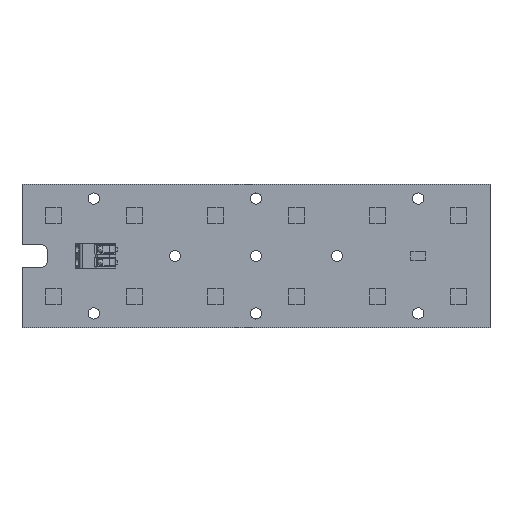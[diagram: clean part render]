
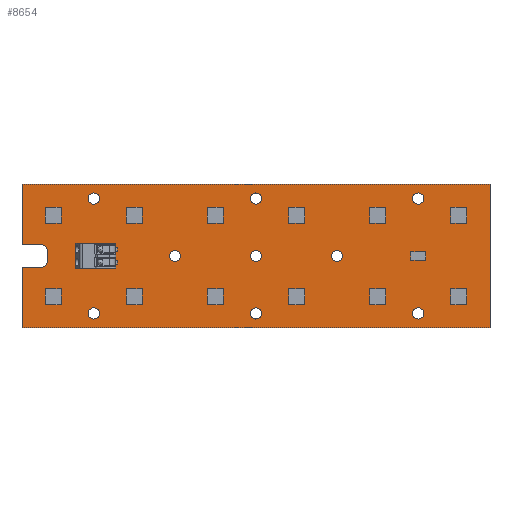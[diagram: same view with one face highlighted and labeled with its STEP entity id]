
A CAD part, top view. The second image highlights one B-rep face of the part: STEP entity #8654.
In plain terms, the highlighted planar face has unit normal (0, 0, 1).
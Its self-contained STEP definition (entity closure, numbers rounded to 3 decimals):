
#8005 = VERTEX_POINT('',#8006);
#8006 = CARTESIAN_POINT('',(-98.7,-22.5,0.));
#8012 = EDGE_CURVE('',#8005,#8013,#8015,.T.);
#8013 = VERTEX_POINT('',#8014);
#8014 = CARTESIAN_POINT('',(-98.7,-3.5,0.));
#8015 = LINE('',#8016,#8017);
#8016 = CARTESIAN_POINT('',(-98.7,-22.5,0.));
#8017 = VECTOR('',#8018,1.);
#8018 = DIRECTION('',(0.,1.,0.));
#8043 = EDGE_CURVE('',#8013,#8044,#8046,.T.);
#8044 = VERTEX_POINT('',#8045);
#8045 = CARTESIAN_POINT('',(-92.7,-3.5,0.));
#8046 = LINE('',#8047,#8048);
#8047 = CARTESIAN_POINT('',(-98.7,-3.5,0.));
#8048 = VECTOR('',#8049,1.);
#8049 = DIRECTION('',(1.,0.,0.));
#8074 = EDGE_CURVE('',#8044,#8075,#8077,.T.);
#8075 = VERTEX_POINT('',#8076);
#8076 = CARTESIAN_POINT('',(-90.7,-1.5,0.));
#8077 = CIRCLE('',#8078,2.001);
#8078 = AXIS2_PLACEMENT_3D('',#8079,#8080,#8081);
#8079 = CARTESIAN_POINT('',(-92.701,-1.499,0.));
#8080 = DIRECTION('',(0.,0.,1.));
#8081 = DIRECTION('',(0.,-1.,0.));
#8107 = EDGE_CURVE('',#8075,#8108,#8110,.T.);
#8108 = VERTEX_POINT('',#8109);
#8109 = CARTESIAN_POINT('',(-90.7,1.5,0.));
#8110 = LINE('',#8111,#8112);
#8111 = CARTESIAN_POINT('',(-90.7,-1.5,0.));
#8112 = VECTOR('',#8113,1.);
#8113 = DIRECTION('',(0.,1.,0.));
#8138 = EDGE_CURVE('',#8108,#8139,#8141,.T.);
#8139 = VERTEX_POINT('',#8140);
#8140 = CARTESIAN_POINT('',(-92.7,3.5,0.));
#8141 = CIRCLE('',#8142,2.001);
#8142 = AXIS2_PLACEMENT_3D('',#8143,#8144,#8145);
#8143 = CARTESIAN_POINT('',(-92.701,1.499,0.));
#8144 = DIRECTION('',(0.,0.,1.));
#8145 = DIRECTION('',(1.,0.,0.));
#8171 = EDGE_CURVE('',#8139,#8172,#8174,.T.);
#8172 = VERTEX_POINT('',#8173);
#8173 = CARTESIAN_POINT('',(-98.7,3.5,0.));
#8174 = LINE('',#8175,#8176);
#8175 = CARTESIAN_POINT('',(-92.7,3.5,0.));
#8176 = VECTOR('',#8177,1.);
#8177 = DIRECTION('',(-1.,0.,0.));
#8202 = EDGE_CURVE('',#8172,#8203,#8205,.T.);
#8203 = VERTEX_POINT('',#8204);
#8204 = CARTESIAN_POINT('',(-98.7,22.5,0.));
#8205 = LINE('',#8206,#8207);
#8206 = CARTESIAN_POINT('',(-98.7,3.5,0.));
#8207 = VECTOR('',#8208,1.);
#8208 = DIRECTION('',(0.,1.,0.));
#8233 = EDGE_CURVE('',#8203,#8234,#8236,.T.);
#8234 = VERTEX_POINT('',#8235);
#8235 = CARTESIAN_POINT('',(47.9,22.5,0.));
#8236 = LINE('',#8237,#8238);
#8237 = CARTESIAN_POINT('',(-98.7,22.5,0.));
#8238 = VECTOR('',#8239,1.);
#8239 = DIRECTION('',(1.,0.,0.));
#8264 = EDGE_CURVE('',#8234,#8265,#8267,.T.);
#8265 = VERTEX_POINT('',#8266);
#8266 = CARTESIAN_POINT('',(47.9,-22.5,0.));
#8267 = LINE('',#8268,#8269);
#8268 = CARTESIAN_POINT('',(47.9,22.5,0.));
#8269 = VECTOR('',#8270,1.);
#8270 = DIRECTION('',(0.,-1.,0.));
#8295 = EDGE_CURVE('',#8265,#8005,#8296,.T.);
#8296 = LINE('',#8297,#8298);
#8297 = CARTESIAN_POINT('',(47.9,-22.5,0.));
#8298 = VECTOR('',#8299,1.);
#8299 = DIRECTION('',(-1.,0.,0.));
#8319 = VERTEX_POINT('',#8320);
#8320 = CARTESIAN_POINT('',(-74.45,-18.,0.));
#8326 = EDGE_CURVE('',#8319,#8319,#8327,.T.);
#8327 = CIRCLE('',#8328,1.75);
#8328 = AXIS2_PLACEMENT_3D('',#8329,#8330,#8331);
#8329 = CARTESIAN_POINT('',(-76.2,-18.,0.));
#8330 = DIRECTION('',(0.,0.,1.));
#8331 = DIRECTION('',(1.,0.,0.));
#8352 = VERTEX_POINT('',#8353);
#8353 = CARTESIAN_POINT('',(-23.65,0.,0.));
#8359 = EDGE_CURVE('',#8352,#8352,#8360,.T.);
#8360 = CIRCLE('',#8361,1.75);
#8361 = AXIS2_PLACEMENT_3D('',#8362,#8363,#8364);
#8362 = CARTESIAN_POINT('',(-25.4,0.,0.));
#8363 = DIRECTION('',(0.,0.,1.));
#8364 = DIRECTION('',(1.,0.,0.));
#8385 = VERTEX_POINT('',#8386);
#8386 = CARTESIAN_POINT('',(-74.45,18.,0.));
#8392 = EDGE_CURVE('',#8385,#8385,#8393,.T.);
#8393 = CIRCLE('',#8394,1.75);
#8394 = AXIS2_PLACEMENT_3D('',#8395,#8396,#8397);
#8395 = CARTESIAN_POINT('',(-76.2,18.,0.));
#8396 = DIRECTION('',(0.,0.,1.));
#8397 = DIRECTION('',(1.,0.,0.));
#8418 = VERTEX_POINT('',#8419);
#8419 = CARTESIAN_POINT('',(-49.1,0.,0.));
#8425 = EDGE_CURVE('',#8418,#8418,#8426,.T.);
#8426 = CIRCLE('',#8427,1.7);
#8427 = AXIS2_PLACEMENT_3D('',#8428,#8429,#8430);
#8428 = CARTESIAN_POINT('',(-50.8,0.,0.));
#8429 = DIRECTION('',(0.,0.,1.));
#8430 = DIRECTION('',(1.,0.,0.));
#8451 = VERTEX_POINT('',#8452);
#8452 = CARTESIAN_POINT('',(-23.65,-18.,0.));
#8458 = EDGE_CURVE('',#8451,#8451,#8459,.T.);
#8459 = CIRCLE('',#8460,1.75);
#8460 = AXIS2_PLACEMENT_3D('',#8461,#8462,#8463);
#8461 = CARTESIAN_POINT('',(-25.4,-18.,0.));
#8462 = DIRECTION('',(0.,0.,1.));
#8463 = DIRECTION('',(1.,0.,0.));
#8484 = VERTEX_POINT('',#8485);
#8485 = CARTESIAN_POINT('',(27.15,-18.,0.));
#8491 = EDGE_CURVE('',#8484,#8484,#8492,.T.);
#8492 = CIRCLE('',#8493,1.75);
#8493 = AXIS2_PLACEMENT_3D('',#8494,#8495,#8496);
#8494 = CARTESIAN_POINT('',(25.4,-18.,0.));
#8495 = DIRECTION('',(0.,0.,1.));
#8496 = DIRECTION('',(1.,0.,0.));
#8517 = VERTEX_POINT('',#8518);
#8518 = CARTESIAN_POINT('',(-23.65,18.,0.));
#8524 = EDGE_CURVE('',#8517,#8517,#8525,.T.);
#8525 = CIRCLE('',#8526,1.75);
#8526 = AXIS2_PLACEMENT_3D('',#8527,#8528,#8529);
#8527 = CARTESIAN_POINT('',(-25.4,18.,0.));
#8528 = DIRECTION('',(0.,0.,1.));
#8529 = DIRECTION('',(1.,0.,0.));
#8550 = VERTEX_POINT('',#8551);
#8551 = CARTESIAN_POINT('',(1.7,0.,0.));
#8557 = EDGE_CURVE('',#8550,#8550,#8558,.T.);
#8558 = CIRCLE('',#8559,1.7);
#8559 = AXIS2_PLACEMENT_3D('',#8560,#8561,#8562);
#8560 = CARTESIAN_POINT('',(0.,0.,0.));
#8561 = DIRECTION('',(0.,0.,1.));
#8562 = DIRECTION('',(1.,0.,0.));
#8583 = VERTEX_POINT('',#8584);
#8584 = CARTESIAN_POINT('',(27.15,18.,0.));
#8590 = EDGE_CURVE('',#8583,#8583,#8591,.T.);
#8591 = CIRCLE('',#8592,1.75);
#8592 = AXIS2_PLACEMENT_3D('',#8593,#8594,#8595);
#8593 = CARTESIAN_POINT('',(25.4,18.,0.));
#8594 = DIRECTION('',(0.,0.,1.));
#8595 = DIRECTION('',(1.,0.,0.));
#8654 = ADVANCED_FACE('',(#8655,#8667,#8670,#8673,#8676,#8679,#8682,
    #8685,#8688,#8691),#8694,.T.);
#8655 = FACE_BOUND('',#8656,.F.);
#8656 = EDGE_LOOP('',(#8657,#8658,#8659,#8660,#8661,#8662,#8663,#8664,
    #8665,#8666));
#8657 = ORIENTED_EDGE('',*,*,#8012,.T.);
#8658 = ORIENTED_EDGE('',*,*,#8043,.T.);
#8659 = ORIENTED_EDGE('',*,*,#8074,.T.);
#8660 = ORIENTED_EDGE('',*,*,#8107,.T.);
#8661 = ORIENTED_EDGE('',*,*,#8138,.T.);
#8662 = ORIENTED_EDGE('',*,*,#8171,.T.);
#8663 = ORIENTED_EDGE('',*,*,#8202,.T.);
#8664 = ORIENTED_EDGE('',*,*,#8233,.T.);
#8665 = ORIENTED_EDGE('',*,*,#8264,.T.);
#8666 = ORIENTED_EDGE('',*,*,#8295,.T.);
#8667 = FACE_BOUND('',#8668,.T.);
#8668 = EDGE_LOOP('',(#8669));
#8669 = ORIENTED_EDGE('',*,*,#8326,.F.);
#8670 = FACE_BOUND('',#8671,.T.);
#8671 = EDGE_LOOP('',(#8672));
#8672 = ORIENTED_EDGE('',*,*,#8359,.F.);
#8673 = FACE_BOUND('',#8674,.T.);
#8674 = EDGE_LOOP('',(#8675));
#8675 = ORIENTED_EDGE('',*,*,#8392,.F.);
#8676 = FACE_BOUND('',#8677,.T.);
#8677 = EDGE_LOOP('',(#8678));
#8678 = ORIENTED_EDGE('',*,*,#8425,.F.);
#8679 = FACE_BOUND('',#8680,.T.);
#8680 = EDGE_LOOP('',(#8681));
#8681 = ORIENTED_EDGE('',*,*,#8458,.F.);
#8682 = FACE_BOUND('',#8683,.T.);
#8683 = EDGE_LOOP('',(#8684));
#8684 = ORIENTED_EDGE('',*,*,#8491,.F.);
#8685 = FACE_BOUND('',#8686,.T.);
#8686 = EDGE_LOOP('',(#8687));
#8687 = ORIENTED_EDGE('',*,*,#8524,.F.);
#8688 = FACE_BOUND('',#8689,.T.);
#8689 = EDGE_LOOP('',(#8690));
#8690 = ORIENTED_EDGE('',*,*,#8557,.F.);
#8691 = FACE_BOUND('',#8692,.T.);
#8692 = EDGE_LOOP('',(#8693));
#8693 = ORIENTED_EDGE('',*,*,#8590,.F.);
#8694 = PLANE('',#8695);
#8695 = AXIS2_PLACEMENT_3D('',#8696,#8697,#8698);
#8696 = CARTESIAN_POINT('',(-98.7,-22.5,0.));
#8697 = DIRECTION('',(0.,0.,1.));
#8698 = DIRECTION('',(1.,0.,0.));
